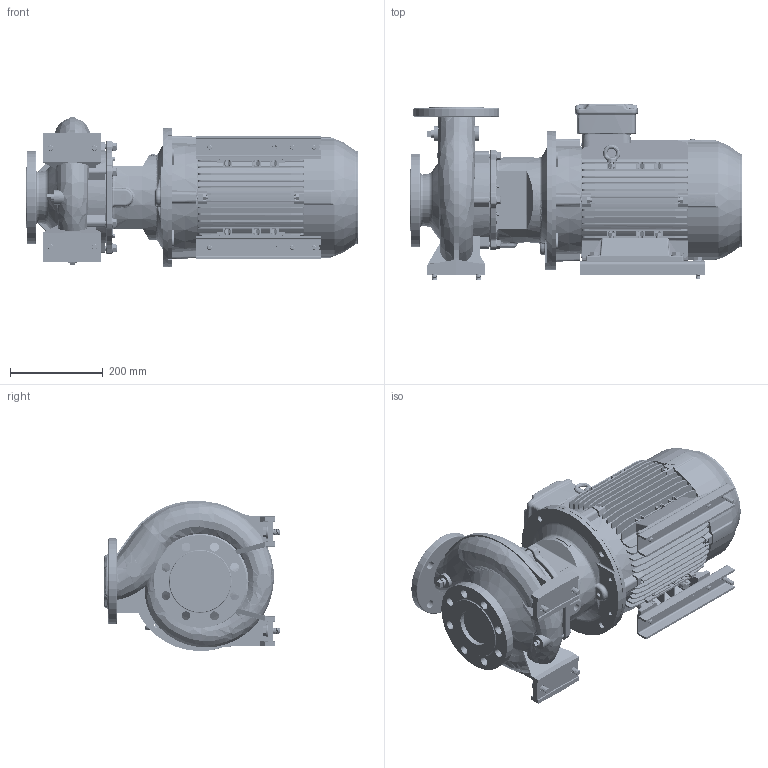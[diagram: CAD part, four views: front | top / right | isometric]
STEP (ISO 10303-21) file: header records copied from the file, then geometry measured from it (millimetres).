
FILE_DESCRIPTION (( 'STEP AP214' ), '1' );
FILE_NAME ('GSD2 65-160_9.2_(132M)_W21.STEP', '2026-07-09T05:54:56', ( '' ), ( '' ), 'SwSTEP 2.0', 'SolidWorks 2024', '' );
FILE_SCHEMA (( 'AUTOMOTIVE_DESIGN' ));
Length unit declared in the file: millimetre
Products named in the file (9): Parametric bolt_SFT-A257B; 65-160-132M_ﾃﾞﾌｫﾙﾄ; Parametric Flat Washer_M12; GSD2  65-160_9.2_(132M)_W21; Parametric bolt_SFT-A253B; 140_178 x 28 - 271472025; 132M ALIE3_W21T_B35; Parametric Flat Washer_M10; Parametric bolt_SFT-A299B
Assembly tree (24 placements, depth 2):
  GSD2  65-160_9.2_(132M)_W21
    65-160-132M_ﾃﾞﾌｫﾙﾄ
    140_178 x 28 - 271472025  x2
    Parametric bolt_SFT-A253B  x4
    Parametric bolt_SFT-A257B  x2
    Parametric bolt_SFT-A299B  x4
    Parametric Flat Washer_M12  x4
    Parametric Flat Washer_M10  x6
    132M ALIE3_W21T_B35
Bounding box: 714.8 x 380.5 x 323.46 mm (x, y, z)
Volume: 29569645.8 mm3; surface area: 1987084.8 mm2
Topology: 27 solids, 27 shells, 4947 faces, 12900 edges, 8331 vertices
Faces by surface type: plane 2874, cylinder 1256, torus 318, bspline 263, cone 204, sphere 32
Entity records: 181203 total; most frequent: CARTESIAN_POINT 72943, ORIENTED_EDGE 23452, DIRECTION 20946, EDGE_CURVE 11726, VECTOR 7750, LINE 7750, VERTEX_POINT 7583, AXIS2_PLACEMENT_3D 6598
